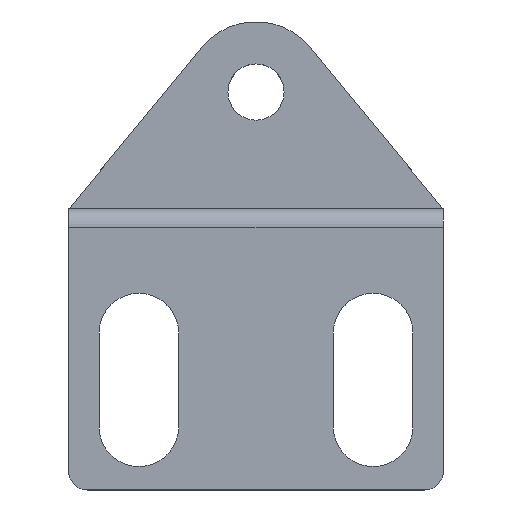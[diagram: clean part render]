
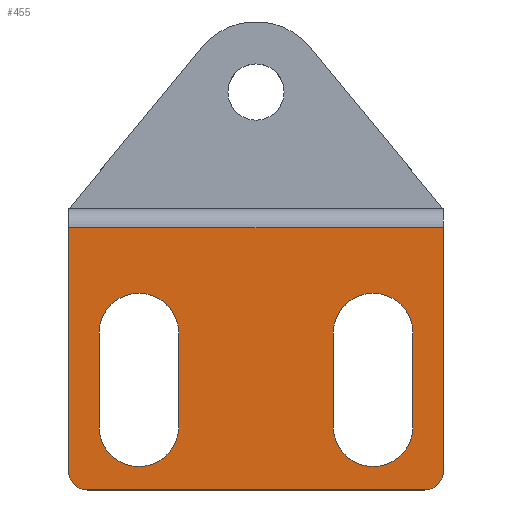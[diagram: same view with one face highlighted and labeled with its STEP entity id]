
A CAD part, top view. The second image highlights one B-rep face of the part: STEP entity #455.
In plain terms, the highlighted planar face has unit normal (0, 0, 1).
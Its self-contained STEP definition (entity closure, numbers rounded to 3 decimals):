
#10 = CARTESIAN_POINT ( 'NONE',  ( -12.5, -23.25, 17. ) ) ;
#11 = DIRECTION ( 'NONE',  ( 0., 0., -1. ) ) ;
#12 = DIRECTION ( 'NONE',  ( -1., 0., 0. ) ) ;
#28 = CARTESIAN_POINT ( 'NONE',  ( 8.25, -23.25, 17. ) ) ;
#30 = CARTESIAN_POINT ( 'NONE',  ( 8.25, -13.25, 17. ) ) ;
#32 = CARTESIAN_POINT ( 'NONE',  ( -20., -2., 17. ) ) ;
#33 = CARTESIAN_POINT ( 'NONE',  ( -16.75, -23.25, 17. ) ) ;
#121 = CIRCLE ( 'NONE', #492, 2. ) ;
#126 = VECTOR ( 'NONE', #640, 1000. ) ;
#128 = LINE ( 'NONE', #644, #126 ) ;
#130 = CIRCLE ( 'NONE', #495, 4.25 ) ;
#133 = CIRCLE ( 'NONE', #497, 4.25 ) ;
#137 = VECTOR ( 'NONE', #632, 1000. ) ;
#139 = VECTOR ( 'NONE', #630, 1000. ) ;
#140 = LINE ( 'NONE', #631, #137 ) ;
#145 = CIRCLE ( 'NONE', #500, 4.25 ) ;
#147 = LINE ( 'NONE', #624, #139 ) ;
#152 = VECTOR ( 'NONE', #665, 1000. ) ;
#155 = LINE ( 'NONE', #663, #152 ) ;
#158 = VECTOR ( 'NONE', #658, 1000. ) ;
#163 = LINE ( 'NONE', #650, #158 ) ;
#168 = VECTOR ( 'NONE', #606, 1000. ) ;
#176 = LINE ( 'NONE', #611, #168 ) ;
#180 = VECTOR ( 'NONE', #290, 1000. ) ;
#182 = CIRCLE ( 'NONE', #509, 4.25 ) ;
#183 = LINE ( 'NONE', #291, #180 ) ;
#184 = CIRCLE ( 'NONE', #511, 2. ) ;
#185 = FACE_BOUND ( 'NONE', #803, .T. ) ;
#187 = FACE_OUTER_BOUND ( 'NONE', #856, .T. ) ;
#191 = FACE_BOUND ( 'NONE', #854, .T. ) ;
#222 = LINE ( 'NONE', #703, #241 ) ;
#241 = VECTOR ( 'NONE', #697, 1000. ) ;
#249 = CARTESIAN_POINT ( 'NONE',  ( -18., -28., 17. ) ) ;
#250 = DIRECTION ( 'NONE',  ( 0., 0., 1. ) ) ;
#251 = DIRECTION ( 'NONE',  ( 1., 0., 0. ) ) ;
#259 = CARTESIAN_POINT ( 'NONE',  ( -8.25, -13.25, 17. ) ) ;
#261 = CARTESIAN_POINT ( 'NONE',  ( -18., -30., 17. ) ) ;
#263 = CARTESIAN_POINT ( 'NONE',  ( 18., -30., 17. ) ) ;
#264 = CARTESIAN_POINT ( 'NONE',  ( -20., -28., 17. ) ) ;
#266 = CARTESIAN_POINT ( 'NONE',  ( -16.75, -13.25, 17. ) ) ;
#269 = CARTESIAN_POINT ( 'NONE',  ( -8.25, -23.25, 17. ) ) ;
#275 = CARTESIAN_POINT ( 'NONE',  ( 20., -28., 17. ) ) ;
#277 = CARTESIAN_POINT ( 'NONE',  ( 20., -2., 17. ) ) ;
#284 = CARTESIAN_POINT ( 'NONE',  ( 16.75, -13.25, 17. ) ) ;
#289 = CARTESIAN_POINT ( 'NONE',  ( 16.75, -23.25, 17. ) ) ;
#290 = DIRECTION ( 'NONE',  ( 0., 1., 0. ) ) ;
#291 = CARTESIAN_POINT ( 'NONE',  ( -16.75, -1., 17. ) ) ;
#292 = CARTESIAN_POINT ( 'NONE',  ( -12.5, -13.25, 17. ) ) ;
#293 = DIRECTION ( 'NONE',  ( 0., 0., -1. ) ) ;
#294 = DIRECTION ( 'NONE',  ( -1., 0., 0. ) ) ;
#296 = CARTESIAN_POINT ( 'NONE',  ( 18., -28., 17. ) ) ;
#297 = DIRECTION ( 'NONE',  ( 0., 0., 1. ) ) ;
#298 = DIRECTION ( 'NONE',  ( -1., 0., 0. ) ) ;
#308 = DIRECTION ( 'NONE',  ( 0., 0., 1. ) ) ;
#316 = CARTESIAN_POINT ( 'NONE',  ( 0., -1., 17. ) ) ;
#318 = PLANE ( 'NONE',  #510 ) ;
#320 = DIRECTION ( 'NONE',  ( 1., 0., 0. ) ) ;
#396 = EDGE_CURVE ( 'NONE', #753, #786, #222, .T. ) ;
#455 = ADVANCED_FACE ( 'NONE', ( #191, #185, #187 ), #318, .T. ) ;
#468 = EDGE_CURVE ( 'NONE', #764, #747, #182, .T. ) ;
#474 = EDGE_CURVE ( 'NONE', #787, #764, #183, .T. ) ;
#476 = EDGE_CURVE ( 'NONE', #752, #766, #184, .T. ) ;
#492 = AXIS2_PLACEMENT_3D ( 'NONE', #249, #250, #251 ) ;
#495 = AXIS2_PLACEMENT_3D ( 'NONE', #10, #11, #12 ) ;
#497 = AXIS2_PLACEMENT_3D ( 'NONE', #641, #642, #643 ) ;
#500 = AXIS2_PLACEMENT_3D ( 'NONE', #621, #622, #623 ) ;
#509 = AXIS2_PLACEMENT_3D ( 'NONE', #292, #293, #294 ) ;
#510 = AXIS2_PLACEMENT_3D ( 'NONE', #316, #308, #320 ) ;
#511 = AXIS2_PLACEMENT_3D ( 'NONE', #296, #297, #298 ) ;
#540 = EDGE_CURVE ( 'NONE', #786, #768, #176, .T. ) ;
#556 = EDGE_CURVE ( 'NONE', #749, #752, #163, .T. ) ;
#559 = EDGE_CURVE ( 'NONE', #776, #781, #155, .T. ) ;
#564 = EDGE_CURVE ( 'NONE', #781, #782, #145, .T. ) ;
#567 = EDGE_CURVE ( 'NONE', #768, #766, #147, .T. ) ;
#568 = EDGE_CURVE ( 'NONE', #782, #784, #140, .T. ) ;
#572 = EDGE_CURVE ( 'NONE', #784, #776, #133, .T. ) ;
#575 = EDGE_CURVE ( 'NONE', #747, #758, #128, .T. ) ;
#579 = EDGE_CURVE ( 'NONE', #758, #787, #130, .T. ) ;
#585 = EDGE_CURVE ( 'NONE', #753, #749, #121, .T. ) ;
#606 = DIRECTION ( 'NONE',  ( 1., 0., 0. ) ) ;
#611 = CARTESIAN_POINT ( 'NONE',  ( -10., -2., 17. ) ) ;
#621 = CARTESIAN_POINT ( 'NONE',  ( 12.5, -23.25, 17. ) ) ;
#622 = DIRECTION ( 'NONE',  ( 0., 0., -1. ) ) ;
#623 = DIRECTION ( 'NONE',  ( 1., 0., 0. ) ) ;
#624 = CARTESIAN_POINT ( 'NONE',  ( 20., 0., 17. ) ) ;
#630 = DIRECTION ( 'NONE',  ( 0., -1., 0. ) ) ;
#631 = CARTESIAN_POINT ( 'NONE',  ( 8.25, -1., 17. ) ) ;
#632 = DIRECTION ( 'NONE',  ( 0., 1., 0. ) ) ;
#640 = DIRECTION ( 'NONE',  ( 0., -1., 0. ) ) ;
#641 = CARTESIAN_POINT ( 'NONE',  ( 12.5, -13.25, 17. ) ) ;
#642 = DIRECTION ( 'NONE',  ( 0., 0., -1. ) ) ;
#643 = DIRECTION ( 'NONE',  ( 1., 0., 0. ) ) ;
#644 = CARTESIAN_POINT ( 'NONE',  ( -8.25, -1., 17. ) ) ;
#650 = CARTESIAN_POINT ( 'NONE',  ( 0., -30., 17. ) ) ;
#658 = DIRECTION ( 'NONE',  ( 1., 0., 0. ) ) ;
#663 = CARTESIAN_POINT ( 'NONE',  ( 16.75, -1., 17. ) ) ;
#665 = DIRECTION ( 'NONE',  ( 0., -1., 0. ) ) ;
#697 = DIRECTION ( 'NONE',  ( 0., 1., 0. ) ) ;
#703 = CARTESIAN_POINT ( 'NONE',  ( -20., -2., 17. ) ) ;
#730 = ORIENTED_EDGE ( 'NONE', *, *, #540, .F. ) ;
#731 = ORIENTED_EDGE ( 'NONE', *, *, #572, .T. ) ;
#743 = ORIENTED_EDGE ( 'NONE', *, *, #568, .T. ) ;
#747 = VERTEX_POINT ( 'NONE', #259 ) ;
#749 = VERTEX_POINT ( 'NONE', #261 ) ;
#752 = VERTEX_POINT ( 'NONE', #263 ) ;
#753 = VERTEX_POINT ( 'NONE', #264 ) ;
#755 = ORIENTED_EDGE ( 'NONE', *, *, #556, .T. ) ;
#758 = VERTEX_POINT ( 'NONE', #269 ) ;
#764 = VERTEX_POINT ( 'NONE', #266 ) ;
#766 = VERTEX_POINT ( 'NONE', #275 ) ;
#768 = VERTEX_POINT ( 'NONE', #277 ) ;
#776 = VERTEX_POINT ( 'NONE', #284 ) ;
#781 = VERTEX_POINT ( 'NONE', #289 ) ;
#782 = VERTEX_POINT ( 'NONE', #28 ) ;
#784 = VERTEX_POINT ( 'NONE', #30 ) ;
#786 = VERTEX_POINT ( 'NONE', #32 ) ;
#787 = VERTEX_POINT ( 'NONE', #33 ) ;
#803 = EDGE_LOOP ( 'NONE', ( #743, #731, #925, #961 ) ) ;
#854 = EDGE_LOOP ( 'NONE', ( #932, #933, #909, #947 ) ) ;
#856 = EDGE_LOOP ( 'NONE', ( #958, #956, #730, #960, #963, #755 ) ) ;
#909 = ORIENTED_EDGE ( 'NONE', *, *, #575, .T. ) ;
#925 = ORIENTED_EDGE ( 'NONE', *, *, #559, .T. ) ;
#932 = ORIENTED_EDGE ( 'NONE', *, *, #474, .T. ) ;
#933 = ORIENTED_EDGE ( 'NONE', *, *, #468, .T. ) ;
#947 = ORIENTED_EDGE ( 'NONE', *, *, #579, .T. ) ;
#956 = ORIENTED_EDGE ( 'NONE', *, *, #567, .F. ) ;
#958 = ORIENTED_EDGE ( 'NONE', *, *, #476, .T. ) ;
#960 = ORIENTED_EDGE ( 'NONE', *, *, #396, .F. ) ;
#961 = ORIENTED_EDGE ( 'NONE', *, *, #564, .T. ) ;
#963 = ORIENTED_EDGE ( 'NONE', *, *, #585, .T. ) ;
